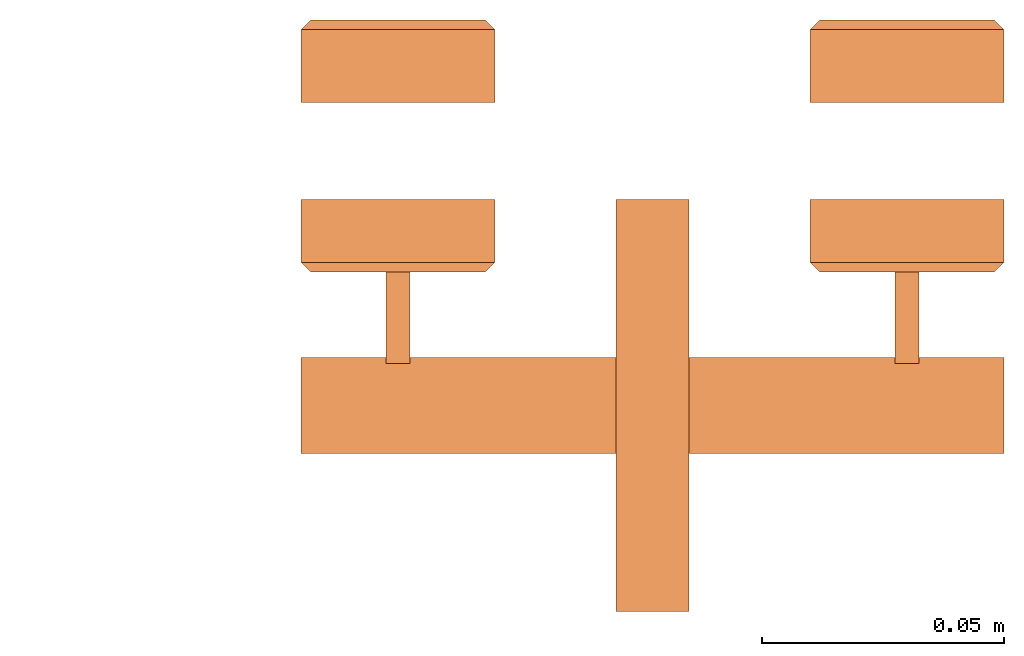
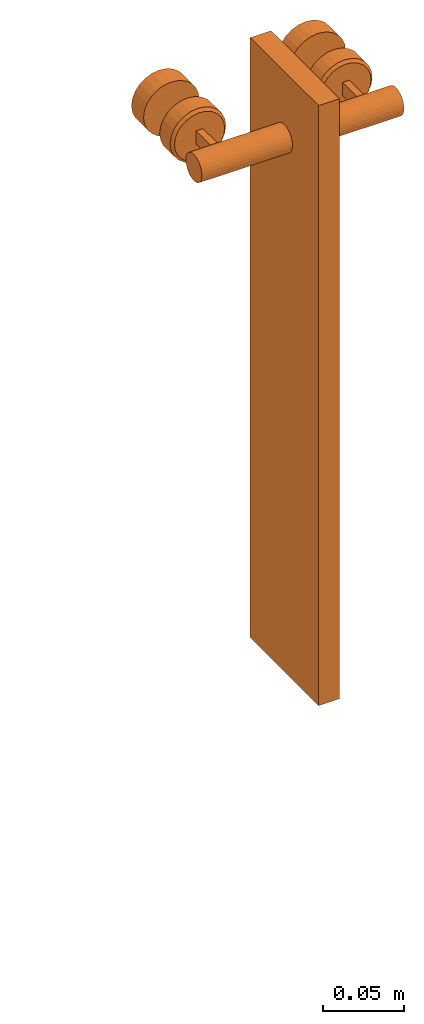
# One storey, part 10 of 10: 1 proxy.
"""IFC2X3 building model written with IfcOpenShell, lengths in millimetres."""

from ifc_helpers import new_model, entity, si_unit, converted_unit, derived_unit, direction, frame, origin_with_axes, place, context, subcontext, project, spatial, faceted_brep, material, material_list, type_object, element, save


model = new_model("IFC2X3")

# Units and contexts
model_context = context("Model", 3, precision=0.01, world=frame((0.0, 4.29681676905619e-09, 0.0)), true_north=direction((4.01073788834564e-13, 1.0)))
plan_context = context("Plan", 3, precision=0.01, world=frame((0.0, 4.29681676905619e-09, 0.0)), true_north=direction((4.01073788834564e-13, 1.0)))
footprint_context = subcontext(model_context, "FootPrint", "Model", "MODEL_VIEW")
ifc_project = project(units=[converted_unit("PLANEANGLEUNIT", "DEGREE", entity("IfcPositiveLengthMeasure", 0.0174532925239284), si_unit("PLANEANGLEUNIT", "RADIAN"), dimensions=[0, 0, 0, 0, 0, 0, 0]), si_unit("AREAUNIT", "SQUARE_METRE"), si_unit("LENGTHUNIT", "METRE", prefix="MILLI"), si_unit("MASSUNIT", "GRAM", prefix="KILO"), si_unit("POWERUNIT", "WATT"), si_unit("PRESSUREUNIT", "PASCAL"), si_unit("FORCEUNIT", "NEWTON", prefix="KILO"), si_unit("ELECTRICVOLTAGEUNIT", "VOLT"), si_unit("ELECTRICCURRENTUNIT", "AMPERE"), si_unit("THERMODYNAMICTEMPERATUREUNIT", "DEGREE_CELSIUS"), si_unit("TIMEUNIT", "SECOND"), si_unit("VOLUMEUNIT", "CUBIC_METRE"), derived_unit("LINEARVELOCITYUNIT", [(si_unit("LENGTHUNIT", "METRE"), 1), (si_unit("TIMEUNIT", "SECOND"), -1)]), derived_unit("VOLUMETRICFLOWRATEUNIT", [(si_unit("VOLUMEUNIT", "CUBIC_METRE"), 1), (si_unit("TIMEUNIT", "SECOND"), -1)]), derived_unit("THERMALTRANSMITTANCEUNIT", [(si_unit("POWERUNIT", "WATT"), 1), (si_unit("THERMODYNAMICTEMPERATUREUNIT", "KELVIN"), -1), (si_unit("AREAUNIT", "SQUARE_METRE"), -1)]), derived_unit("SOUNDPRESSUREUNIT", [(si_unit("PRESSUREUNIT", "PASCAL"), 1)])], contexts=[model_context, plan_context])

# Site, building, storey
site_placement = place(None, origin_with_axes())
site = spatial("IfcSite", under=ifc_project, at=site_placement, Name="ENGM", CompositionType="ELEMENT")
building_placement = place(site_placement, origin_with_axes())
building = spatial("IfcBuilding", under=site, at=building_placement, Name="TH", CompositionType="ELEMENT")
storey_placement = place(building_placement, frame((0.0, 0.0, 197000.0), z_axis=(0.0, 0.0, 1.0), x_axis=(1.0, 0.0, 0.0)))
storey = spatial("IfcBuildingStorey", under=building, at=storey_placement, Name="Nivå B", CompositionType="ELEMENT", Elevation=197000.0)

# Proxy
ifc_material_1 = material(Name="<Unnamed>")
ifc_material_2 = material(Name="Steel, Cast")
ifc_material_list = material_list([ifc_material_1, ifc_material_2])
building_element_proxy_type = type_object("IfcBuildingElementProxyType", Name="Stål rekkverk unit + 285 ned:B280 - Stål rekkverk unit + 285 ned", PredefinedType="NOTDEFINED", material=ifc_material_list)
proxy_placement = place(storey_placement, frame((910000.000000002, 480820.004374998, 16699.9891538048), z_axis=(0.0, 0.0, 1.0), x_axis=(0.0, -1.0, 0.0)))
element("IfcBuildingElementProxy", 1, at=proxy_placement, inside=storey, type_object=building_element_proxy_type, Name="Stål rekkverk unit + 285 ned:B280 - Stål rekkverk unit + 285 ned", ObjectType="Stål rekkverk unit + 285 ned:B280 - Stål rekkverk unit + 285 ned", context=footprint_context, shape_type="Brep", body=[
    faceted_brep([(13.0, 47.3236190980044, 169.329362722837), (0.0, 47.3236190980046, 169.329362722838), (0.0, 52.5, 170.010846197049), (13.0, 52.4999999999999, 170.010846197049), (0.0, 57.6763809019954, 169.329362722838), (13.0, 57.6763809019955, 169.329362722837), (0.0, 62.4999999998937, 167.331354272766), (13.0, 62.4999999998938, 167.331354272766), (13.0, 66.6421356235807, 164.152981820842), (0.0, 66.6421356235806, 164.152981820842), (0.0, 69.8205080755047, 160.010846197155), (13.0, 69.8205080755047, 160.010846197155), (0.0, 71.818516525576, 155.187227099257), (13.0, 71.818516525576, 155.187227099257), (13.0, 72.4999999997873, 150.010846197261), (0.0, 72.4999999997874, 150.010846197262), (0.0, 71.818516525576, 144.834465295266), (13.0, 71.8185165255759, 144.834465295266), (0.0, 69.8205080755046, 140.010846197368), (13.0, 69.8205080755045, 140.010846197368), (0.0, 66.6421356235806, 135.868710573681), (13.0, 66.6421356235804, 135.868710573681), (0.0, 62.4999999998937, 132.690338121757), (13.0, 62.4999999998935, 132.690338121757), (0.0, 57.6763809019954, 130.692329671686), (13.0, 57.6763809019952, 130.692329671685), (0.0, 52.4999999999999, 130.010846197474), (13.0, 52.5, 130.010846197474), (0.0, 47.3236190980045, 130.692329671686), (13.0, 47.3236190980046, 130.692329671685), (0.0, 42.5000000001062, 132.690338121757), (13.0, 42.5000000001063, 132.690338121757), (13.0, 38.3578643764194, 135.868710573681), (0.0, 38.3578643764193, 135.868710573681), (0.0, 35.1794919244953, 140.010846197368), (13.0, 35.1794919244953, 140.010846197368), (0.0, 33.1814834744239, 144.834465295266), (13.0, 33.1814834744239, 144.834465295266), (13.0, 32.5000000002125, 150.010846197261), (0.0, 32.5000000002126, 150.010846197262), (0.0, 33.181483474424, 155.187227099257), (13.0, 33.1814834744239, 155.187227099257), (0.0, 35.1794919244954, 160.010846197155), (13.0, 35.1794919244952, 160.010846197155), (0.0, 38.3578643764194, 164.152981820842), (13.0, 38.3578643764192, 164.152981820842), (0.0, 42.5000000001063, 167.331354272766), (13.0, 42.5000000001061, 167.331354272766), (15.0, 61.5000000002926, 165.599303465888), (15.0, 65.2279220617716, 162.738768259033), (15.0, 68.0884572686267, 159.010846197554), (15.0, 69.8866648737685, 154.669589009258), (15.0, 70.5000000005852, 150.010846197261), (15.0, 69.8866648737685, 145.352103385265), (15.0, 68.0884572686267, 141.010846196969), (15.0, 65.2279220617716, 137.28292413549), (15.0, 61.5000000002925, 134.422388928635), (15.0, 57.1587428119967, 132.624181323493), (15.0, 52.4999999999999, 132.010846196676), (15.0, 47.8412571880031, 132.624181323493), (15.0, 43.4999999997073, 134.422388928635), (15.0, 39.7720779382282, 137.28292413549), (15.0, 36.9115427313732, 141.010846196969), (15.0, 35.1133351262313, 145.352103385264), (15.0, 34.4999999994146, 150.010846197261), (15.0, 35.1133351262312, 154.669589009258), (15.0, 36.911542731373, 159.010846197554), (15.0, 39.772077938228, 162.738768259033), (15.0, 43.4999999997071, 165.599303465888), (15.0, 47.8412571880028, 167.39751107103), (15.0, 52.4999999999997, 168.010846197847), (15.0, 57.1587428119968, 167.39751107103)], [[[0, 1, 2, 3]], [[2, 4, 5, 3]], [[4, 6, 7, 5]], [[8, 7, 6, 9]], [[8, 9, 10, 11]], [[10, 12, 13, 11]], [[14, 13, 12, 15]], [[16, 17, 14, 15]], [[16, 18, 19, 17]], [[18, 20, 21, 19]], [[22, 23, 21, 20]], [[23, 22, 24, 25]], [[25, 24, 26, 27]], [[26, 28, 29, 27]], [[28, 30, 31, 29]], [[32, 31, 30, 33]], [[32, 33, 34, 35]], [[34, 36, 37, 35]], [[38, 37, 36, 39]], [[40, 41, 38, 39]], [[40, 42, 43, 41]], [[42, 44, 45, 43]], [[46, 47, 45, 44]], [[47, 46, 1, 0]], [[30, 28, 26, 24, 22, 20, 18, 16, 15, 12, 10, 9, 6, 4, 2, 1, 46, 44, 42, 40, 39, 36, 34, 33]], [[48, 49, 50, 51, 52, 53, 54, 55, 56, 57, 58, 59, 60, 61, 62, 63, 64, 65, 66, 67, 68, 69, 70, 71]], [[3, 70, 69, 0]], [[3, 5, 71, 70]], [[5, 7, 48, 71]], [[7, 8, 49, 48]], [[50, 49, 8, 11]], [[13, 51, 50, 11]], [[14, 52, 51, 13]], [[14, 17, 53, 52]], [[17, 19, 54, 53]], [[19, 21, 55, 54]], [[56, 55, 21, 23]], [[25, 57, 56, 23]], [[27, 58, 57, 25]], [[27, 29, 59, 58]], [[29, 31, 60, 59]], [[31, 32, 61, 60]], [[62, 61, 32, 35]], [[37, 63, 62, 35]], [[38, 64, 63, 37]], [[38, 41, 65, 64]], [[41, 43, 66, 65]], [[43, 45, 67, 66]], [[68, 67, 45, 47]], [[0, 69, 68, 47]]], orient=[[False], [False], [False], [False], [False], [False], [False], [False], [False], [False], [False], [False], [False], [False], [False], [False], [False], [False], [False], [False], [False], [False], [False], [False], [False], [False], [False], [False], [False], [False], [False], [False], [False], [False], [False], [False], [False], [False], [False], [False], [False], [False], [False], [False], [False], [False], [False], [False], [False], [False]]),
    faceted_brep([(13.0, -47.3236190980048, 130.692329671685), (0.0, -47.3236190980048, 130.692329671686), (0.0, -52.5000000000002, 130.010846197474), (13.0, -52.5000000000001, 130.010846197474), (0.0, -57.6763809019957, 130.692329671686), (13.0, -57.6763809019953, 130.692329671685), (0.0, -62.499999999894, 132.690338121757), (13.0, -62.4999999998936, 132.690338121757), (13.0, -66.6421356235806, 135.868710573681), (0.0, -66.6421356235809, 135.868710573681), (0.0, -69.8205080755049, 140.010846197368), (13.0, -69.8205080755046, 140.010846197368), (0.0, -71.8185165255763, 144.834465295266), (13.0, -71.818516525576, 144.834465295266), (13.0, -72.4999999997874, 150.010846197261), (0.0, -72.4999999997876, 150.010846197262), (0.0, -71.8185165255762, 155.187227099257), (13.0, -71.818516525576, 155.187227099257), (0.0, -69.8205080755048, 160.010846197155), (13.0, -69.8205080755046, 160.010846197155), (0.0, -66.6421356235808, 164.152981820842), (13.0, -66.6421356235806, 164.152981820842), (0.0, -62.4999999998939, 167.331354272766), (13.0, -62.4999999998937, 167.331354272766), (0.0, -57.6763809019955, 169.329362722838), (13.0, -57.6763809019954, 169.329362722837), (0.0, -52.5000000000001, 170.010846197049), (13.0, -52.4999999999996, 170.010846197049), (0.0, -47.3236190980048, 169.329362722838), (13.0, -47.3236190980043, 169.329362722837), (0.0, -42.5000000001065, 167.331354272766), (13.0, -42.500000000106, 167.331354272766), (13.0, -38.3578643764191, 164.152981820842), (0.0, -38.3578643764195, 164.152981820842), (0.0, -35.1794919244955, 160.010846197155), (13.0, -35.1794919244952, 160.010846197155), (0.0, -33.1814834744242, 155.187227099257), (13.0, -33.1814834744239, 155.187227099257), (13.0, -32.5000000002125, 150.010846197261), (0.0, -32.5000000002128, 150.010846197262), (0.0, -33.1814834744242, 144.834465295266), (13.0, -33.181483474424, 144.834465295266), (0.0, -35.1794919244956, 140.010846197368), (13.0, -35.1794919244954, 140.010846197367), (0.0, -38.3578643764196, 135.868710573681), (13.0, -38.3578643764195, 135.868710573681), (0.0, -42.5000000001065, 132.690338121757), (13.0, -42.5000000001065, 132.690338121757), (15.0, -47.841257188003, 167.39751107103), (15.0, -43.4999999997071, 165.599303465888), (15.0, -39.7720779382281, 162.738768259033), (15.0, -36.9115427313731, 159.010846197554), (15.0, -35.1133351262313, 154.669589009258), (15.0, -34.4999999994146, 150.010846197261), (15.0, -35.1133351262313, 145.352103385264), (15.0, -36.9115427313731, 141.010846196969), (15.0, -39.7720779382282, 137.28292413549), (15.0, -43.4999999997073, 134.422388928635), (15.0, -47.8412571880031, 132.624181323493), (15.0, -52.5, 132.010846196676), (15.0, -57.1587428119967, 132.624181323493), (15.0, -61.5000000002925, 134.422388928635), (15.0, -65.2279220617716, 137.28292413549), (15.0, -68.0884572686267, 141.010846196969), (15.0, -69.8866648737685, 145.352103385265), (15.0, -70.5000000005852, 150.010846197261), (15.0, -69.8866648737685, 154.669589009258), (15.0, -68.0884572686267, 159.010846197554), (15.0, -65.2279220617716, 162.738768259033), (15.0, -61.5000000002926, 165.599303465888), (15.0, -57.1587428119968, 167.39751107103), (15.0, -52.4999999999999, 168.010846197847)], [[[0, 1, 2, 3]], [[2, 4, 5, 3]], [[4, 6, 7, 5]], [[8, 7, 6, 9]], [[8, 9, 10, 11]], [[10, 12, 13, 11]], [[14, 13, 12, 15]], [[16, 17, 14, 15]], [[16, 18, 19, 17]], [[18, 20, 21, 19]], [[22, 23, 21, 20]], [[23, 22, 24, 25]], [[25, 24, 26, 27]], [[26, 28, 29, 27]], [[28, 30, 31, 29]], [[32, 31, 30, 33]], [[32, 33, 34, 35]], [[34, 36, 37, 35]], [[38, 37, 36, 39]], [[40, 41, 38, 39]], [[40, 42, 43, 41]], [[42, 44, 45, 43]], [[46, 47, 45, 44]], [[47, 46, 1, 0]], [[33, 30, 28, 26, 24, 22, 20, 18, 16, 15, 12, 10, 9, 6, 4, 2, 1, 46, 44, 42, 40, 39, 36, 34]], [[48, 49, 50, 51, 52, 53, 54, 55, 56, 57, 58, 59, 60, 61, 62, 63, 64, 65, 66, 67, 68, 69, 70, 71]], [[71, 27, 29, 48]], [[27, 71, 70, 25]], [[25, 70, 69, 23]], [[21, 23, 69, 68]], [[67, 19, 21, 68]], [[66, 17, 19, 67]], [[66, 65, 14, 17]], [[14, 65, 64, 13]], [[13, 64, 63, 11]], [[11, 63, 62, 8]], [[7, 8, 62, 61]], [[60, 5, 7, 61]], [[59, 3, 5, 60]], [[3, 59, 58, 0]], [[0, 58, 57, 47]], [[45, 47, 57, 56]], [[55, 43, 45, 56]], [[54, 41, 43, 55]], [[54, 53, 38, 41]], [[38, 53, 52, 37]], [[37, 52, 51, 35]], [[35, 51, 50, 32]], [[31, 32, 50, 49]], [[48, 29, 31, 49]]], orient=[[False], [False], [False], [False], [False], [False], [False], [False], [False], [False], [False], [False], [False], [False], [False], [False], [False], [False], [False], [False], [False], [False], [False], [False], [False], [False], [False], [False], [False], [False], [False], [False], [False], [False], [False], [False], [False], [False], [False], [False], [False], [False], [False], [False], [False], [False], [False], [False], [False], [False]]),
    faceted_brep([(-35.0, 47.3236190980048, 130.692329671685), (-20.0, 47.3236190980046, 130.692329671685), (-20.0, 52.5, 130.010846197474), (-35.0, 52.5, 130.010846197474), (-20.0, 57.6763809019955, 130.692329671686), (-35.0, 57.6763809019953, 130.692329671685), (-20.0, 62.4999999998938, 132.690338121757), (-35.0, 62.4999999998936, 132.690338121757), (-35.0, 66.6421356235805, 135.868710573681), (-20.0, 66.6421356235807, 135.868710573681), (-20.0, 69.8205080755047, 140.010846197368), (-35.0, 69.8205080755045, 140.010846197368), (-20.0, 71.818516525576, 144.834465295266), (-35.0, 71.8185165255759, 144.834465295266), (-35.0, 72.4999999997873, 150.010846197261), (-20.0, 72.4999999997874, 150.010846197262), (-20.0, 71.818516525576, 155.187227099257), (-35.0, 71.8185165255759, 155.187227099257), (-20.0, 69.8205080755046, 160.010846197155), (-35.0, 69.8205080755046, 160.010846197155), (-20.0, 66.6421356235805, 164.152981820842), (-35.0, 66.6421356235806, 164.152981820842), (-20.0, 62.4999999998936, 167.331354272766), (-35.0, 62.4999999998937, 167.331354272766), (-20.0, 57.6763809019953, 169.329362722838), (-35.0, 57.6763809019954, 169.329362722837), (-20.0, 52.4999999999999, 170.010846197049), (-35.0, 52.4999999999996, 170.010846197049), (-20.0, 47.3236190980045, 169.329362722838), (-35.0, 47.3236190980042, 169.329362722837), (-20.0, 42.5000000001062, 167.331354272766), (-35.0, 42.5000000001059, 167.331354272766), (-35.0, 38.3578643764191, 164.152981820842), (-20.0, 38.3578643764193, 164.152981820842), (-20.0, 35.1794919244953, 160.010846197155), (-35.0, 35.1794919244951, 160.010846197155), (-20.0, 33.1814834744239, 155.187227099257), (-35.0, 33.1814834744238, 155.187227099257), (-35.0, 32.5000000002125, 150.010846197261), (-20.0, 32.5000000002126, 150.010846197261), (-20.0, 33.181483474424, 144.834465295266), (-35.0, 33.181483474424, 144.834465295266), (-20.0, 35.1794919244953, 140.010846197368), (-35.0, 35.1794919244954, 140.010846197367), (-20.0, 38.3578643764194, 135.868710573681), (-35.0, 38.3578643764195, 135.868710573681), (-20.0, 42.5000000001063, 132.690338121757), (-35.0, 42.5000000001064, 132.690338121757), (-37.0, 47.841257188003, 167.39751107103), (-37.0, 43.4999999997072, 165.599303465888), (-37.0, 39.7720779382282, 162.738768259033), (-37.0, 36.9115427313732, 159.010846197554), (-37.0, 35.1133351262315, 154.669589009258), (-37.0, 34.4999999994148, 150.010846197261), (-37.0, 35.1133351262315, 145.352103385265), (-37.0, 36.9115427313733, 141.010846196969), (-37.0, 39.7720779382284, 137.28292413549), (-37.0, 43.4999999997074, 134.422388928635), (-37.0, 47.8412571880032, 132.624181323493), (-37.0, 52.5, 132.010846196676), (-37.0, 57.1587428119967, 132.624181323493), (-37.0, 61.5000000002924, 134.422388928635), (-37.0, 65.2279220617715, 137.28292413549), (-37.0, 68.0884572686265, 141.010846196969), (-37.0, 69.8866648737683, 145.352103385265), (-37.0, 70.500000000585, 150.010846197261), (-37.0, 69.8866648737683, 154.669589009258), (-37.0, 68.0884572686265, 159.010846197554), (-37.0, 65.2279220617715, 162.738768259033), (-37.0, 61.5000000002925, 165.599303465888), (-37.0, 57.1587428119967, 167.39751107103), (-37.0, 52.4999999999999, 168.010846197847)], [[[0, 1, 2, 3]], [[2, 4, 5, 3]], [[4, 6, 7, 5]], [[8, 7, 6, 9]], [[8, 9, 10, 11]], [[10, 12, 13, 11]], [[14, 13, 12, 15]], [[16, 17, 14, 15]], [[16, 18, 19, 17]], [[18, 20, 21, 19]], [[22, 23, 21, 20]], [[23, 22, 24, 25]], [[25, 24, 26, 27]], [[26, 28, 29, 27]], [[28, 30, 31, 29]], [[32, 31, 30, 33]], [[32, 33, 34, 35]], [[34, 36, 37, 35]], [[38, 37, 36, 39]], [[40, 41, 38, 39]], [[40, 42, 43, 41]], [[42, 44, 45, 43]], [[46, 47, 45, 44]], [[47, 46, 1, 0]], [[33, 30, 28, 26, 24, 22, 20, 18, 16, 15, 12, 10, 9, 6, 4, 2, 1, 46, 44, 42, 40, 39, 36, 34]], [[48, 49, 50, 51, 52, 53, 54, 55, 56, 57, 58, 59, 60, 61, 62, 63, 64, 65, 66, 67, 68, 69, 70, 71]], [[71, 27, 29, 48]], [[27, 71, 70, 25]], [[25, 70, 69, 23]], [[21, 23, 69, 68]], [[67, 19, 21, 68]], [[66, 17, 19, 67]], [[66, 65, 14, 17]], [[14, 65, 64, 13]], [[13, 64, 63, 11]], [[11, 63, 62, 8]], [[7, 8, 62, 61]], [[60, 5, 7, 61]], [[59, 3, 5, 60]], [[3, 59, 58, 0]], [[0, 58, 57, 47]], [[45, 47, 57, 56]], [[55, 43, 45, 56]], [[54, 41, 43, 55]], [[54, 53, 38, 41]], [[38, 53, 52, 37]], [[37, 52, 51, 35]], [[35, 51, 50, 32]], [[31, 32, 50, 49]], [[48, 29, 31, 49]]], orient=[[False], [False], [False], [False], [False], [False], [False], [False], [False], [False], [False], [False], [False], [False], [False], [False], [False], [False], [False], [False], [False], [False], [False], [False], [False], [False], [False], [False], [False], [False], [False], [False], [False], [False], [False], [False], [False], [False], [False], [False], [False], [False], [False], [False], [False], [False], [False], [False], [False], [False]]),
    faceted_brep([(-35.0, -47.3236190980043, 169.329362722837), (-20.0, -47.3236190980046, 169.329362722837), (-20.0, -52.5, 170.010846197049), (-35.0, -52.4999999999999, 170.010846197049), (-20.0, -57.6763809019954, 169.329362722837), (-35.0, -57.6763809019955, 169.329362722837), (-20.0, -62.4999999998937, 167.331354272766), (-35.0, -62.4999999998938, 167.331354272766), (-35.0, -66.6421356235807, 164.152981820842), (-20.0, -66.6421356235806, 164.152981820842), (-20.0, -69.8205080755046, 160.010846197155), (-35.0, -69.8205080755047, 160.010846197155), (-20.0, -71.818516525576, 155.187227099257), (-35.0, -71.818516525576, 155.187227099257), (-35.0, -72.4999999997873, 150.010846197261), (-20.0, -72.4999999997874, 150.010846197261), (-20.0, -71.818516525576, 144.834465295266), (-35.0, -71.8185165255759, 144.834465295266), (-20.0, -69.8205080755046, 140.010846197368), (-35.0, -69.8205080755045, 140.010846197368), (-20.0, -66.6421356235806, 135.868710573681), (-35.0, -66.6421356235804, 135.868710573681), (-20.0, -62.4999999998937, 132.690338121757), (-35.0, -62.4999999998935, 132.690338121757), (-20.0, -57.6763809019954, 130.692329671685), (-35.0, -57.6763809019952, 130.692329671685), (-20.0, -52.4999999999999, 130.010846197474), (-35.0, -52.5, 130.010846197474), (-20.0, -47.3236190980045, 130.692329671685), (-35.0, -47.3236190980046, 130.692329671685), (-20.0, -42.5000000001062, 132.690338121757), (-35.0, -42.5000000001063, 132.690338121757), (-35.0, -38.3578643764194, 135.868710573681), (-20.0, -38.3578643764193, 135.868710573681), (-20.0, -35.1794919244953, 140.010846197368), (-35.0, -35.1794919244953, 140.010846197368), (-20.0, -33.1814834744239, 144.834465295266), (-35.0, -33.1814834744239, 144.834465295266), (-35.0, -32.5000000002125, 150.010846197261), (-20.0, -32.5000000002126, 150.010846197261), (-20.0, -33.181483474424, 155.187227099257), (-35.0, -33.1814834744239, 155.187227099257), (-20.0, -35.1794919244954, 160.010846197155), (-35.0, -35.1794919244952, 160.010846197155), (-20.0, -38.3578643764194, 164.152981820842), (-35.0, -38.3578643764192, 164.152981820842), (-20.0, -42.5000000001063, 167.331354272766), (-35.0, -42.5000000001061, 167.331354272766), (-37.0, -68.0884572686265, 159.010846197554), (-37.0, -69.8866648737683, 154.669589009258), (-37.0, -70.500000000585, 150.010846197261), (-37.0, -69.8866648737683, 145.352103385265), (-37.0, -68.0884572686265, 141.010846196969), (-37.0, -65.2279220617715, 137.28292413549), (-37.0, -61.5000000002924, 134.422388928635), (-37.0, -57.1587428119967, 132.624181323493), (-37.0, -52.4999999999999, 132.010846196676), (-37.0, -47.8412571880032, 132.624181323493), (-37.0, -43.4999999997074, 134.422388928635), (-37.0, -39.7720779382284, 137.28292413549), (-37.0, -36.9115427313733, 141.010846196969), (-37.0, -35.1133351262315, 145.352103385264), (-37.0, -34.4999999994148, 150.010846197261), (-37.0, -35.1133351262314, 154.669589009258), (-37.0, -36.9115427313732, 159.010846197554), (-37.0, -39.7720779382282, 162.738768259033), (-37.0, -43.4999999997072, 165.599303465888), (-37.0, -47.8412571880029, 167.39751107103), (-37.0, -52.4999999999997, 168.010846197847), (-37.0, -57.1587428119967, 167.39751107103), (-37.0, -61.5000000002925, 165.599303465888), (-37.0, -65.2279220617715, 162.738768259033)], [[[0, 1, 2, 3]], [[2, 4, 5, 3]], [[4, 6, 7, 5]], [[8, 7, 6, 9]], [[8, 9, 10, 11]], [[10, 12, 13, 11]], [[14, 13, 12, 15]], [[16, 17, 14, 15]], [[16, 18, 19, 17]], [[18, 20, 21, 19]], [[22, 23, 21, 20]], [[23, 22, 24, 25]], [[25, 24, 26, 27]], [[26, 28, 29, 27]], [[28, 30, 31, 29]], [[32, 31, 30, 33]], [[32, 33, 34, 35]], [[34, 36, 37, 35]], [[38, 37, 36, 39]], [[40, 41, 38, 39]], [[40, 42, 43, 41]], [[42, 44, 45, 43]], [[46, 47, 45, 44]], [[47, 46, 1, 0]], [[30, 28, 26, 24, 22, 20, 18, 16, 15, 12, 10, 9, 6, 4, 2, 1, 46, 44, 42, 40, 39, 36, 34, 33]], [[48, 49, 50, 51, 52, 53, 54, 55, 56, 57, 58, 59, 60, 61, 62, 63, 64, 65, 66, 67, 68, 69, 70, 71]], [[3, 68, 67, 0]], [[3, 5, 69, 68]], [[5, 7, 70, 69]], [[7, 8, 71, 70]], [[48, 71, 8, 11]], [[13, 49, 48, 11]], [[14, 50, 49, 13]], [[14, 17, 51, 50]], [[17, 19, 52, 51]], [[19, 21, 53, 52]], [[54, 53, 21, 23]], [[25, 55, 54, 23]], [[27, 56, 55, 25]], [[27, 29, 57, 56]], [[29, 31, 58, 57]], [[31, 32, 59, 58]], [[60, 59, 32, 35]], [[37, 61, 60, 35]], [[38, 62, 61, 37]], [[38, 41, 63, 62]], [[41, 43, 64, 63]], [[43, 45, 65, 64]], [[66, 65, 45, 47]], [[0, 67, 66, 47]]], orient=[[False], [False], [False], [False], [False], [False], [False], [False], [False], [False], [False], [False], [False], [False], [False], [False], [False], [False], [False], [False], [False], [False], [False], [False], [False], [False], [False], [False], [False], [False], [False], [False], [False], [False], [False], [False], [False], [False], [False], [False], [False], [False], [False], [False], [False], [False], [False], [False], [False], [False]]),
    faceted_brep([(15.0, 55.0, 150.010846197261), (15.0, 55.0, 145.010846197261), (33.8397459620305, 55.0, 145.010846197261), (32.684234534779, 55.0, 148.100153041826), (32.5965825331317, 55.0, 151.397324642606), (32.8202668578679, 55.0, 152.330672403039), (33.043951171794, 55.0, 153.264020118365), (33.4418485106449, 55.0, 154.137433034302), (33.8397459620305, 55.0, 155.010846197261), (15.0, 55.0, 155.010846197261), (32.8407417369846, 50.0, 147.422655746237), (33.8397459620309, 50.0, 145.010846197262), (15.0, 50.0, 145.010846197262), (15.0, 50.0, 155.010846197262), (33.8397459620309, 50.0, 155.010846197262), (32.8407417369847, 50.0, 152.599036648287), (32.4999999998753, 50.0, 150.010846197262), (33.8397459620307, 53.2322327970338, 155.010846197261), (33.8397459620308, 51.7677672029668, 155.010846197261), (32.9716368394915, 53.491532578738, 152.487500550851), (33.0361072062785, 53.2322329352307, 152.674897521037), (33.3466911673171, 51.9830650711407, 153.577676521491), (33.4379265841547, 51.6161164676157, 153.842871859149), (32.6797821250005, 51.4973074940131, 151.42145150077), (32.653529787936, 52.8595554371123, 151.009317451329), (32.599320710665, 52.5000003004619, 148.964793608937), (33.8397459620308, 51.9830651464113, 145.010846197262), (33.8397459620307, 53.0169348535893, 145.010846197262)], [[[0, 1, 2, 3, 4, 5, 6, 7, 8, 9]], [[10, 11, 12, 13, 14, 15, 16]], [[9, 8, 17, 18, 14, 13]], [[4, 19, 20, 21, 22, 6, 5]], [[14, 22, 21, 23]], [[21, 24, 23]], [[23, 24, 25]], [[16, 23, 25]], [[16, 15, 23]], [[10, 16, 25]], [[10, 25, 26]], [[25, 27, 26]], [[3, 27, 25]], [[3, 2, 27]], [[26, 11, 10]], [[3, 25, 24]], [[3, 24, 4]], [[14, 23, 15]], [[22, 14, 18]], [[21, 20, 19, 4, 24]], [[22, 18, 6]], [[6, 18, 17, 8, 7]], [[1, 12, 11, 26, 27, 2]], [[0, 9, 13, 12, 1]]], orient=[[False], [False], [False], [False], [False], [False], [False], [False], [False], [False], [False], [False], [False], [False], [False], [False], [False], [False], [False], [False], [False], [False], [False], [False]]),
    faceted_brep([(15.0, -55.0, 155.010846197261), (33.8397459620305, -55.0, 155.010846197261), (33.4418485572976, -55.0, 154.137433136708), (33.043951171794, -55.0, 153.264020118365), (32.8202668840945, -55.0, 152.330672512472), (32.5965825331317, -55.0, 151.397324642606), (32.684234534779, -55.0, 148.100153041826), (33.8397459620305, -55.0, 145.010846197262), (15.0, -55.0, 145.010846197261), (15.0, -55.0, 150.010846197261), (33.8397459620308, -50.0, 155.010846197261), (15.0, -50.0, 155.010846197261), (15.0, -50.0, 145.010846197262), (33.8397459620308, -50.0, 145.010846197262), (32.8407417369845, -50.0, 147.422655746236), (32.4999999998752, -50.0, 150.010846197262), (32.8407417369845, -50.0, 152.599036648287), (33.8397459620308, -51.6161164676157, 155.010846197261), (33.8397459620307, -53.2322329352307, 155.010846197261), (33.4002212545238, -51.7677672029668, 153.733273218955), (33.3466911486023, -51.9830651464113, 153.577676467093), (32.5857865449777, -52.5000003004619, 149.146253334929), (33.0896373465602, -53.0169348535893, 152.830494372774), (33.0214289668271, -52.8595554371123, 146.858069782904), (33.8397459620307, -51.9830650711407, 145.010846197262), (33.8397459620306, -53.4915324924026, 145.010846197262), (32.8419199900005, -51.4973074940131, 147.467427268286), (33.0361072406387, -53.2322327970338, 152.674897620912)], [[[0, 1, 2, 3, 4, 5, 6, 7, 8, 9]], [[10, 11, 12, 13, 14, 15, 16]], [[0, 11, 10, 17, 18, 1]], [[17, 3, 2, 1, 18]], [[17, 19, 3]], [[17, 10, 19]], [[20, 19, 10, 16]], [[16, 21, 20]], [[21, 22, 20]], [[6, 22, 21]], [[6, 21, 23]], [[6, 23, 7]], [[24, 25, 7, 23]], [[24, 23, 26]], [[13, 24, 26]], [[13, 26, 14]], [[15, 14, 26]], [[15, 26, 21]], [[26, 23, 21]], [[5, 27, 22, 6]], [[16, 15, 21]], [[3, 19, 20, 22, 27, 5, 4]], [[8, 7, 25, 24, 13, 12]], [[8, 12, 11, 0, 9]]], orient=[[False], [False], [False], [False], [False], [False], [False], [False], [False], [False], [False], [False], [False], [False], [False], [False], [False], [False], [False], [False], [False], [False], [False], [False]]),
    faceted_brep([(33.2928803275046, 72.5, 153.913274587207), (33.2928803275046, -72.5, 153.913274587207), (32.5965825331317, -72.5, 151.397324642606), (32.5965825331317, 72.5, 151.397324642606), (32.5751862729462, -72.5, 148.786888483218), (32.5751862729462, 72.5, 148.786888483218), (33.2301496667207, -72.5, 146.259863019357), (33.2301496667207, 72.5, 146.259863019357), (34.5168380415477, 72.5, 143.988460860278), (34.5168380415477, -72.5, 143.988460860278), (36.3475657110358, -72.5, 142.127474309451), (36.3475657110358, 72.5, 142.127474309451), (38.5975716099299, -72.5, 140.803726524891), (38.5975716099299, 72.5, 140.803726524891), (41.1135215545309, -72.5, 140.107428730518), (41.1135215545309, 72.5, 140.107428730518), (43.7239577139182, -72.5, 140.086032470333), (43.7239577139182, 72.5, 140.086032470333), (46.2509831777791, -72.5, 140.740995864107), (46.2509831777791, 72.5, 140.740995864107), (48.5223853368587, -72.5, 142.027684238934), (48.5223853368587, 72.5, 142.027684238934), (50.3833718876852, -72.5, 143.858411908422), (50.3833718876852, 72.5, 143.858411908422), (51.7071196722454, -72.5, 146.108417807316), (51.7071196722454, 72.5, 146.108417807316), (52.4034174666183, -72.5, 148.624367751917), (52.4034174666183, 72.5, 148.624367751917), (52.4248137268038, -72.5, 151.234803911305), (52.4248137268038, 72.5, 151.234803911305), (51.7698503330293, -72.5, 153.761829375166), (51.7698503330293, 72.5, 153.761829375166), (50.4831619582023, 72.5, 156.033231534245), (50.4831619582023, -72.5, 156.033231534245), (48.6524342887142, -72.5, 157.894218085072), (48.6524342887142, 72.5, 157.894218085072), (46.4024283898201, -72.5, 159.217965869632), (46.4024283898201, 72.5, 159.217965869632), (43.8864784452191, -72.5, 159.914263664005), (43.8864784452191, 72.5, 159.914263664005), (41.2760422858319, -72.5, 159.93565992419), (41.2760422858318, 72.5, 159.93565992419), (38.7490168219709, -72.5, 159.280696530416), (38.7490168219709, 72.5, 159.280696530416), (36.4776146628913, -72.5, 157.994008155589), (36.4776146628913, 72.5, 157.994008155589), (34.6166281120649, -72.5, 156.163280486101), (34.6166281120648, 72.5, 156.163280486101)], [[[0, 1, 2, 3]], [[2, 4, 5, 3]], [[4, 6, 7, 5]], [[8, 7, 6, 9]], [[8, 9, 10, 11]], [[10, 12, 13, 11]], [[14, 15, 13, 12]], [[16, 17, 15, 14]], [[16, 18, 19, 17]], [[18, 20, 21, 19]], [[22, 23, 21, 20]], [[23, 22, 24, 25]], [[25, 24, 26, 27]], [[26, 28, 29, 27]], [[28, 30, 31, 29]], [[32, 31, 30, 33]], [[32, 33, 34, 35]], [[34, 36, 37, 35]], [[38, 39, 37, 36]], [[40, 41, 39, 38]], [[40, 42, 43, 41]], [[42, 44, 45, 43]], [[46, 47, 45, 44]], [[47, 46, 1, 0]], [[12, 10, 9, 6, 4, 2, 1, 46, 44, 42, 40, 38, 36, 34, 33, 30, 28, 26, 24, 22, 20, 18, 16, 14]], [[8, 11, 13, 15, 17, 19, 21, 23, 25, 27, 29, 31, 32, 35, 37, 39, 41, 43, 45, 47, 0, 3, 5, 7]]], orient=[[False], [False], [False], [False], [False], [False], [False], [False], [False], [False], [False], [False], [False], [False], [False], [False], [False], [False], [False], [False], [False], [False], [False], [False], [False], [False]]),
    faceted_brep([(85.0, -7.50000000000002, 200.010846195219), (85.0, 7.49999999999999, 200.010846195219), (85.0, 7.49999999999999, -254.98915380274), (85.0, -7.50000000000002, -254.98915380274), (0.0, 7.49999999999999, 200.010846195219), (0.0, -7.50000000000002, 200.010846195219), (0.0, -7.50000000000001, -254.98915380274), (0.0, 7.49999999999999, -254.98915380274)], [[[0, 1, 2, 3]], [[4, 5, 6, 7]], [[3, 2, 7, 6]], [[5, 0, 3, 6]], [[1, 4, 7, 2]], [[5, 4, 1, 0]]], orient=[[False], [False], [False], [False], [False], [False]]),
])

save(model, "model.ifc")
